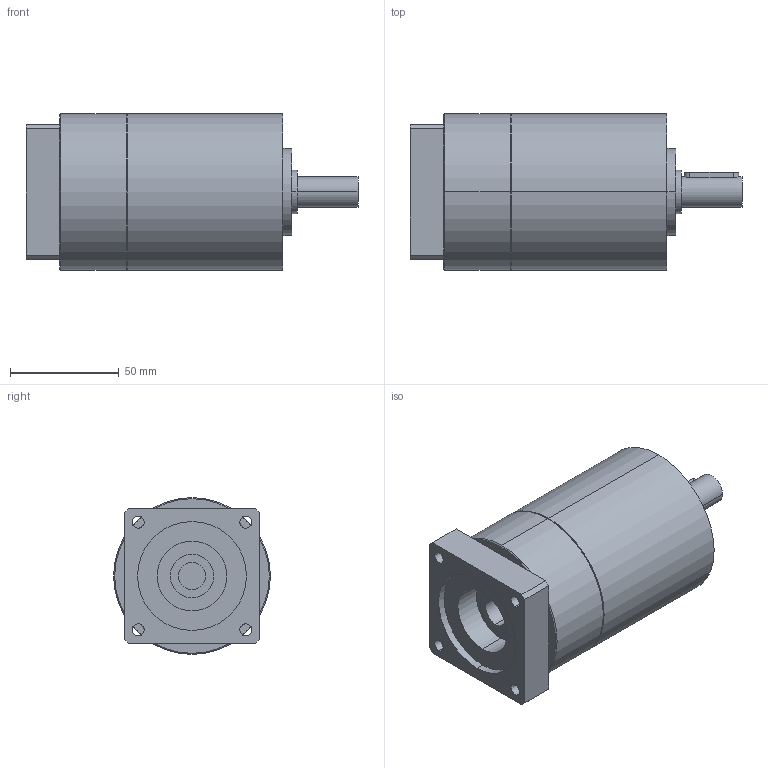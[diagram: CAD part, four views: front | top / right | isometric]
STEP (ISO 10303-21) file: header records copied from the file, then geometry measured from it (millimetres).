
FILE_DESCRIPTION(('CoCreate Modeling STEP Export'),'2;1');
FILE_NAME('GPT75_ig-9-12-16-20-25-28-35-40-50-70-100_14_B14T_12.7_P23.stp','2014-08-27T13:15:44',(''),(''),'CoCreate Modeling STEP processor for AP214 (Solid Model)','CoCreate Modeling 16.00C 25-Feb-2009 (C) Parametric Technology GmbH','');
FILE_SCHEMA(('AUTOMOTIVE_DESIGN { 1 0 10303 214 1 1 1 1 }'));
Length unit declared in the file: millimetre
Products named in the file (2): GPT75_ig-9-12-16-20-25-28-35-40-50-70-100_14_B14T_12.7_P23
Assembly tree (1 placements, depth 2):
  GPT75_ig-9-12-16-20-25-28-35-40-50-70-100_14_B14T_12.7_P23
    GPT75_ig-9-12-16-20-25-28-35-40-50-70-100_14_B14T_12.7_P23
Bounding box: 152.5 x 72 x 72 mm (x, y, z)
Volume: 465149.8 mm3; surface area: 42878.4 mm2
Topology: 1 solids, 1 shells, 80 faces, 198 edges, 129 vertices
Faces by surface type: cylinder 42, plane 34, cone 4
Entity records: 2353 total; most frequent: CARTESIAN_POINT 689, ORIENTED_EDGE 396, DIRECTION 276, EDGE_CURVE 198, VERTEX_POINT 129, AXIS2_PLACEMENT_3D 104, EDGE_LOOP 97, FACE_OUTER_BOUND 80
